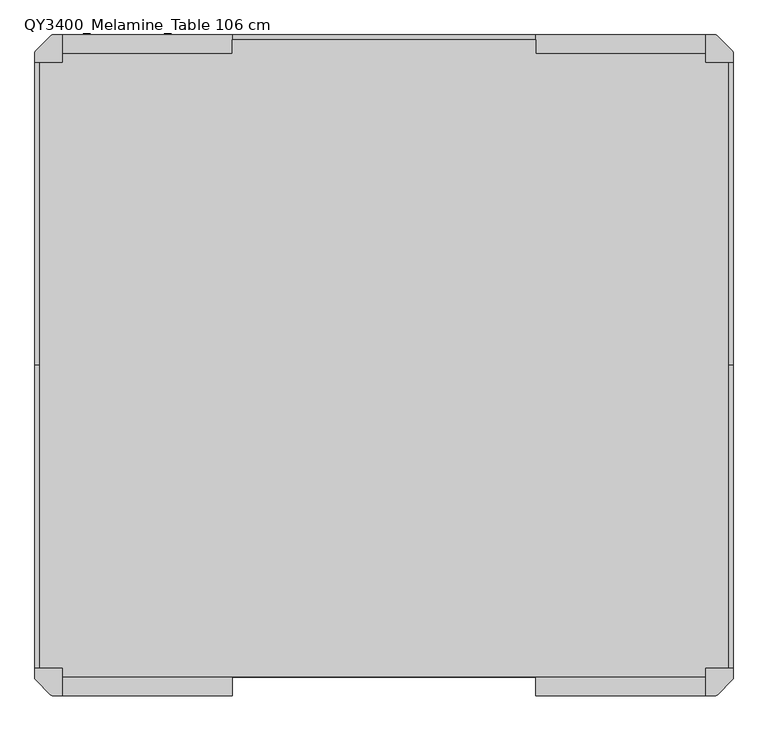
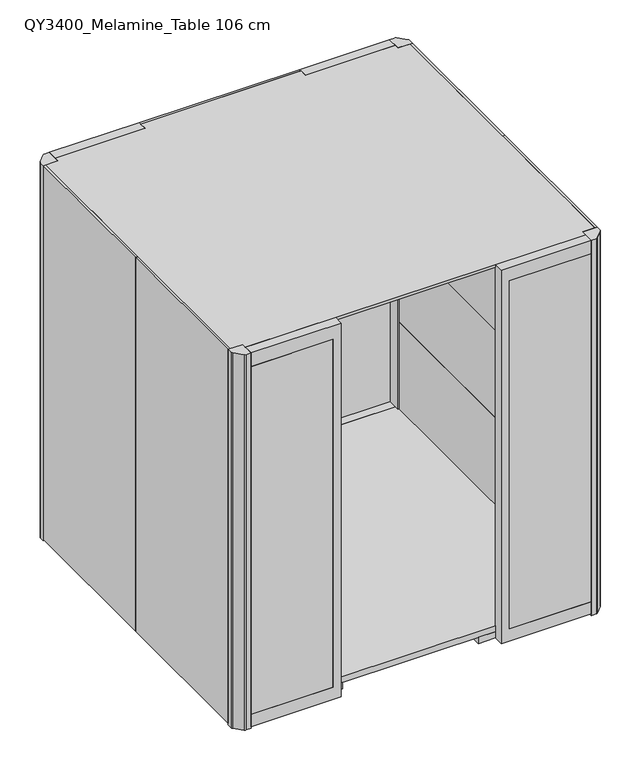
"""IFC4 building model written with IfcOpenShell, lengths in millimetres: furniture geometry, Qyos_400 : QY3400_Melamine_Table 106 cm."""

from ifc_helpers import new_model, si_unit, point, frame, frame_2d, origin, origin_with_axes, place, context, project, spatial, polyline, circle_curve, trimmed, segment, composite_curve, outline, extrude, source, transform, mapped, element, save
from ifc_brep_helpers import plane_surface, cylinder_surface, advanced_brep


def qy3400_melamine_table_106_cm_432369fd(model_context):
    return source(origin(), model_context, "Body", "SolidModel", [
        advanced_brep(
        [(853.8585356, 827.0, 0.0), (900.1414644, 827.0, 0.0), (877.0, 827.0, 0.0), (853.8585356, 827.0, 7.0), (900.1414644, 827.0, 7.0), (867.3615446, 827.0, 7.0), (886.6384554, 827.0, 7.0), (867.3615446, 827.0, 17.0), (886.6384554, 827.0, 17.0), (877.0, 827.0, 17.0)],
        [
            (0, 1, circle_curve(frame((877.0, 827.0, 0.0), z_axis=(0.0, 0.0, -1.0), x_axis=(1.0, 0.0, 0.0)), 23.1414644)),
            (1, 2),
            (2, 0),
            (1, 0, circle_curve(frame((877.0, 827.0, 0.0), z_axis=(0.0, 0.0, -1.0), x_axis=(1.0, 0.0, 0.0)), 23.1414644)),
            (3, 4, circle_curve(frame((877.0, 827.0, 7.0), z_axis=(0.0, 0.0, -1.0), x_axis=(1.0, 0.0, 0.0)), 23.1414644)),
            (4, 1),
            (0, 3),
            (4, 3, circle_curve(frame((877.0, 827.0, 7.0), z_axis=(0.0, 0.0, -1.0), x_axis=(1.0, 0.0, 0.0)), 23.1414644)),
            (5, 6, circle_curve(frame((877.0, 827.0, 7.0), z_axis=(0.0, 0.0, -1.0), x_axis=(1.0, 0.0, 0.0)), 9.6384554)),
            (6, 4),
            (3, 5),
            (6, 5, circle_curve(frame((877.0, 827.0, 7.0), z_axis=(0.0, 0.0, -1.0), x_axis=(1.0, 0.0, 0.0)), 9.6384554)),
            (7, 8, circle_curve(frame((877.0, 827.0, 17.0), z_axis=(0.0, 0.0, -1.0), x_axis=(1.0, 0.0, 0.0)), 9.6384554)),
            (8, 6),
            (5, 7),
            (8, 7, circle_curve(frame((877.0, 827.0, 17.0), z_axis=(0.0, 0.0, -1.0), x_axis=(1.0, 0.0, 0.0)), 9.6384554)),
            (9, 8),
            (7, 9),
        ],
        [
            plane_surface(frame((877.0, 827.0, 0.0), z_axis=(0.0, 0.0, -1.0), x_axis=(1.0, 0.0, 0.0))),
            cylinder_surface(frame((877.0, 827.0, 1997.4144888), z_axis=(0.0, 0.0, 1.0), x_axis=(1.0, 0.0, 0.0)), 23.1414644),
            plane_surface(frame((877.0, 827.0, 7.0), z_axis=(0.0, 0.0, 1.0), x_axis=(1.0, 0.0, 0.0))),
            cylinder_surface(frame((877.0, 827.0, 1997.4144888), z_axis=(0.0, 0.0, 1.0), x_axis=(1.0, 0.0, 0.0)), 9.6384554),
            plane_surface(frame((877.0, 827.0, 17.0), z_axis=(0.0, 0.0, 1.0), x_axis=(1.0, 0.0, 0.0))),
        ],
        [
            (0, [[1, 2, 3]]),
            (0, [[4, -3, -2]]),
            (1, [[5, 6, -1, 7]]),
            (1, [[8, -7, -4, -6]]),
            (2, [[9, 10, -5, 11]]),
            (2, [[12, -11, -8, -10]]),
            (3, [[13, 14, -9, 15]]),
            (3, [[16, -15, -12, -14]]),
            (4, [[17, -13, 18]]),
            (4, [[-18, -16, -17]]),
        ],
    ),
        extrude(outline(composite_curve([segment(trimmed(circle_curve(frame_2d((877.0, 827.0)), 23.1414644), [point((853.8585356, 827.0))], [point((900.1414644, 827.0))], False, "CARTESIAN"), True, "CONTINUOUS"), segment(trimmed(circle_curve(frame_2d((877.0, 827.0)), 23.1414644), [point((900.1414644, 827.0))], [point((853.8585356, 827.0))], False, "CARTESIAN"), True, "CONTINUOUS")], self_intersect=False)), origin_with_axes(), (0.0, 0.0, 1.0), 7.0),
        extrude(outline(composite_curve([segment(polyline([(-945.0, 890.0), (-1025.0, 890.0), (-1025.0, 917.5536246)]), True, "CONTINUOUS"), segment(trimmed(circle_curve(frame_2d((-1013.0024364, 917.3118252)), 12.0), [point((-1025.0, 917.5536246))], [point((-1021.7960176, 925.4771745))], False, "CARTESIAN"), True, "CONTINUOUS"), segment(trimmed(circle_curve(frame_2d((-443.4303831, 388.431197)), 789.2560985), [point((-1021.7960176, 925.4771745))], [point((-980.4763607, 966.7968315))], False, "CARTESIAN"), True, "CONTINUOUS"), segment(trimmed(circle_curve(frame_2d((-972.3110114, 958.0032502)), 12.0), [point((-980.4763607, 966.7968315))], [point((-972.5902872, 970.0))], False, "CARTESIAN"), True, "CONTINUOUS"), segment(polyline([(-972.5902872, 970.0), (-945.0, 970.0), (-945.0, 890.0)]), True, "CONTINUOUS")], self_intersect=False)), origin_with_axes(), (0.0, 0.0, 1.0), 2202.1),
        extrude(outline(composite_curve([segment(polyline([(945.0, 890.0), (945.0, 970.0), (972.5536246, 970.0)]), True, "CONTINUOUS"), segment(trimmed(circle_curve(frame_2d((972.3118252, 958.0024364)), 12.0), [point((972.5536246, 970.0))], [point((980.4771745, 966.7960176))], False, "CARTESIAN"), True, "CONTINUOUS"), segment(trimmed(circle_curve(frame_2d((443.431197, 388.4303831)), 789.2560985), [point((980.4771745, 966.7960176))], [point((1021.7968315, 925.4763607))], False, "CARTESIAN"), True, "CONTINUOUS"), segment(trimmed(circle_curve(frame_2d((1013.0032502, 917.3110114)), 12.0), [point((1021.7968315, 925.4763607))], [point((1025.0, 917.5902872))], False, "CARTESIAN"), True, "CONTINUOUS"), segment(polyline([(1025.0, 917.5902872), (1025.0, 890.0), (945.0, 890.0)]), True, "CONTINUOUS")], self_intersect=False)), origin_with_axes(), (0.0, 0.0, 1.0), 2202.1),
        extrude(outline(composite_curve([segment(polyline([(945.0, -890.0), (1025.0, -890.0), (1025.0, -917.5536246)]), True, "CONTINUOUS"), segment(trimmed(circle_curve(frame_2d((1013.0024364, -917.3118252)), 12.0), [point((1025.0, -917.5536246))], [point((1021.7960176, -925.4771745))], False, "CARTESIAN"), True, "CONTINUOUS"), segment(trimmed(circle_curve(frame_2d((443.4303831, -388.431197)), 789.2560985), [point((1021.7960176, -925.4771745))], [point((980.4763607, -966.7968315))], False, "CARTESIAN"), True, "CONTINUOUS"), segment(trimmed(circle_curve(frame_2d((972.3110114, -958.0032502)), 12.0), [point((980.4763607, -966.7968315))], [point((972.5902872, -970.0))], False, "CARTESIAN"), True, "CONTINUOUS"), segment(polyline([(972.5902872, -970.0), (945.0, -970.0), (945.0, -890.0)]), True, "CONTINUOUS")], self_intersect=False)), origin_with_axes(), (0.0, 0.0, 1.0), 2202.1),
        extrude(outline(composite_curve([segment(polyline([(-945.0, -890.0), (-945.0, -970.0), (-972.5536246, -970.0)]), True, "CONTINUOUS"), segment(trimmed(circle_curve(frame_2d((-972.3118252, -958.0024364)), 12.0), [point((-972.5536246, -970.0))], [point((-980.4771745, -966.7960176))], False, "CARTESIAN"), True, "CONTINUOUS"), segment(trimmed(circle_curve(frame_2d((-443.431197, -388.4303831)), 789.2560985), [point((-980.4771745, -966.7960176))], [point((-1021.7968315, -925.4763607))], False, "CARTESIAN"), True, "CONTINUOUS"), segment(trimmed(circle_curve(frame_2d((-1013.0032502, -917.3110114)), 12.0), [point((-1021.7968315, -925.4763607))], [point((-1025.0, -917.5902872))], False, "CARTESIAN"), True, "CONTINUOUS"), segment(polyline([(-1025.0, -917.5902872), (-1025.0, -890.0), (-945.0, -890.0)]), True, "CONTINUOUS")], self_intersect=False)), origin_with_axes(), (0.0, 0.0, 1.0), 2202.1),
        extrude(outline(polyline([(-445.0, 915.0), (-445.0, 956.0), (445.0, 956.0), (445.0, 915.0), (945.0, 915.0), (945.0, 890.0), (1011.0, 890.0), (1011.0, -890.0), (945.0, -890.0), (945.0, -914.9956819), (-945.0, -914.9956819), (-945.0, -890.0), (-1011.0, -890.0), (-1011.0, 890.0), (-945.0, 890.0), (-945.0, 915.0), (-445.0, 915.0)])), frame((0.0, 0.0, 2186.1), z_axis=(0.0, 0.0, 1.0), x_axis=(1.0, 0.0, 0.0)), (0.0, 0.0, 1.0), 16.0),
        extrude(outline(polyline([(-1025.0, -890.0), (-1025.0, 0.0), (-1011.0, 0.0), (-1011.0, -890.0), (-1025.0, -890.0)])), frame((0.0, 0.0, 10.0), z_axis=(0.0, 0.0, 1.0), x_axis=(1.0, 0.0, 0.0)), (0.0, 0.0, 1.0), 2192.1),
        extrude(outline(polyline([(1025.0, -890.0), (1011.0, -890.0), (1011.0, 0.0), (1025.0, 0.0), (1025.0, -890.0)])), frame((0.0, 0.0, 10.0), z_axis=(0.0, 0.0, 1.0), x_axis=(1.0, 0.0, 0.0)), (0.0, 0.0, 1.0), 2192.1),
        extrude(outline(polyline([(-945.0, 970.0), (-490.0089845, 970.0), (-490.0089845, 965.0), (-945.0, 965.0), (-945.0, 970.0)])), frame((0.0, 0.0, 82.0), z_axis=(0.0, 0.0, 1.0), x_axis=(1.0, 0.0, 0.0)), (0.0, 0.0, 1.0), 2040.1),
        extrude(outline(polyline([(490.0089845, 970.0), (945.0, 970.0), (945.0, 965.0), (490.0089845, 965.0), (490.0089845, 970.0)])), frame((0.0, 0.0, 82.0), z_axis=(0.0, 0.0, 1.0), x_axis=(1.0, 0.0, 0.0)), (0.0, 0.0, 1.0), 2040.1),
        extrude(outline(polyline([(2122.1, -490.0089845), (82.0, -490.0089845), (82.0, -945.0), (10.0, -945.0), (10.0, -445.0), (2202.1, -445.0), (2202.1, -945.0), (2122.1, -945.0), (2122.1, -490.0089845)])), frame((0.0, 915.0, 0.0), z_axis=(0.0, 1.0, 0.0), x_axis=(0.0, 0.0, 1.0)), (0.0, 0.0, 1.0), 55.0),
        extrude(outline(polyline([(2122.1, 490.0089845), (2122.1, 945.0), (2202.1, 945.0), (2202.1, 445.0), (10.0, 445.0), (10.0, 945.0), (82.0, 945.0), (82.0, 490.0089845), (2122.1, 490.0089845)])), frame((0.0, 915.0, 0.0), z_axis=(0.0, 1.0, 0.0), x_axis=(0.0, 0.0, 1.0)), (0.0, 0.0, 1.0), 55.0),
        extrude(outline(polyline([(-490.0089845, -970.0), (-945.0, -970.0), (-945.0, -965.0), (-490.0089845, -965.0), (-490.0089845, -970.0)])), frame((0.0, 0.0, 82.0), z_axis=(0.0, 0.0, 1.0), x_axis=(1.0, 0.0, 0.0)), (0.0, 0.0, 1.0), 2040.1),
        extrude(outline(polyline([(945.0, -970.0), (490.0089845, -970.0), (490.0089845, -965.0), (945.0, -965.0), (945.0, -970.0)])), frame((0.0, 0.0, 82.0), z_axis=(0.0, 0.0, 1.0), x_axis=(1.0, 0.0, 0.0)), (0.0, 0.0, 1.0), 2040.1),
        extrude(outline(polyline([(-857.0, -914.9956819), (-897.0, -914.9956819), (-897.0, 915.0), (-857.0, 915.0), (-857.0, -914.9956819)])), frame((0.0, 0.0, 10.0), z_axis=(0.0, 0.0, 1.0), x_axis=(1.0, 0.0, 0.0)), (0.0, 0.0, 1.0), 37.0),
        extrude(outline(polyline([(-405.0, -914.9956819), (-445.0, -914.9956819), (-445.0, 915.0), (-405.0, 915.0), (-405.0, -914.9956819)])), frame((0.0, 0.0, 10.0), z_axis=(0.0, 0.0, 1.0), x_axis=(1.0, 0.0, 0.0)), (0.0, 0.0, 1.0), 37.0),
        extrude(outline(polyline([(897.0, -914.9956819), (857.0, -914.9956819), (857.0, 915.0), (897.0, 915.0), (897.0, -914.9956819)])), frame((0.0, 0.0, 10.0), z_axis=(0.0, 0.0, 1.0), x_axis=(1.0, 0.0, 0.0)), (0.0, 0.0, 1.0), 37.0),
        extrude(outline(polyline([(349.5486306, 915.0), (445.0557256, 915.0), (445.0557256, -914.9956819), (349.5486306, -914.9956819), (349.5486306, 915.0)])), frame((0.0, 0.0, 10.0), z_axis=(0.0, 0.0, 1.0), x_axis=(1.0, 0.0, 0.0)), (0.0, 0.0, 1.0), 37.0),
        extrude(outline(polyline([(2122.1, -490.0089845), (82.0, -490.0089845), (82.0, -945.0), (10.0, -945.0), (10.0, -445.0), (2202.1, -445.0), (2202.1, -945.0), (2122.1, -945.0), (2122.1, -490.0089845)])), frame((0.0, -970.0, 0.0), z_axis=(0.0, 1.0, 0.0), x_axis=(0.0, 0.0, 1.0)), (0.0, 0.0, 1.0), 55.0043181),
        extrude(outline(polyline([(2122.1, 490.0089845), (2122.1, 945.0), (2202.1, 945.0), (2202.1, 445.0), (10.0, 445.0), (10.0, 945.0), (82.0, 945.0), (82.0, 490.0089845), (2122.1, 490.0089845)])), frame((0.0, -970.0, 0.0), z_axis=(0.0, 1.0, 0.0), x_axis=(0.0, 0.0, 1.0)), (0.0, 0.0, 1.0), 55.0043181),
        extrude(outline(polyline([(-951.0, 890.0), (-945.0, 890.0), (-945.0, 915.0), (945.0, 915.0), (945.0, 890.0), (951.0, 890.0), (951.0, -890.0), (945.0, -890.0), (945.0, -914.9956819), (-945.0, -914.9956819), (-945.0, -890.0), (-951.0, -890.0), (-951.0, 890.0)])), frame((0.0, 0.0, 47.0), z_axis=(0.0, 0.0, 1.0), x_axis=(1.0, 0.0, 0.0)), (0.0, 0.0, 1.0), 35.0),
        extrude(outline(polyline([(970.0, -889.9498873), (951.0, -889.9498873), (951.0, 890.0024364), (970.0, 890.0024364), (970.0, -889.9498873)])), frame((0.0, 0.0, 1617.9823403), z_axis=(0.0, 0.0, 1.0), x_axis=(1.0, 0.0, 0.0)), (0.0, 0.0, 1.0), 504.1176597),
        extrude(outline(polyline([(-970.0, -890.0), (-970.0, 890.0), (-951.0, 890.0), (-951.0, -890.0), (-970.0, -890.0)])), frame((0.0, 0.0, 1617.9823403), z_axis=(0.0, 0.0, 1.0), x_axis=(1.0, 0.0, 0.0)), (0.0, 0.0, 1.0), 504.1176597),
        extrude(outline(polyline([(-445.0, 915.0), (-445.0, 934.0), (445.0557256, 934.0), (445.0557256, 915.0), (-445.0, 915.0)])), frame((0.0, 0.0, 1617.9823403), z_axis=(0.0, 0.0, 1.0), x_axis=(1.0, 0.0, 0.0)), (0.0, 0.0, 1.0), 504.1176597),
        extrude(outline(polyline([(970.0, -890.0), (951.0, -890.0), (951.0, 890.0), (970.0, 890.0), (970.0, -890.0)])), frame((0.0, 0.0, 1106.0116287), z_axis=(0.0, 0.0, 1.0), x_axis=(1.0, 0.0, 0.0)), (0.0, 0.0, 1.0), 511.9707116),
        extrude(outline(polyline([(-970.0, -890.0), (-970.0, 890.0), (-951.0, 890.0), (-951.0, -890.0), (-970.0, -890.0)])), frame((0.0, 0.0, 1106.0116287), z_axis=(0.0, 0.0, 1.0), x_axis=(1.0, 0.0, 0.0)), (0.0, 0.0, 1.0), 511.9707116),
        extrude(outline(polyline([(-445.0, 915.0), (-445.0, 934.0), (445.0557256, 934.0), (445.0557256, 915.0), (-445.0, 915.0)])), frame((0.0, 0.0, 1106.0116287), z_axis=(0.0, 0.0, 1.0), x_axis=(1.0, 0.0, 0.0)), (0.0, 0.0, 1.0), 511.9707116),
        extrude(outline(polyline([(970.0, -890.0), (951.0, -890.0), (951.0, 890.0), (970.0, 890.0), (970.0, -890.0)])), frame((0.0, 0.0, 593.9823403), z_axis=(0.0, 0.0, 1.0), x_axis=(1.0, 0.0, 0.0)), (0.0, 0.0, 1.0), 512.0292884),
        extrude(outline(polyline([(-970.0, -890.0), (-970.0, 890.0), (-951.0, 890.0), (-951.0, -890.0), (-970.0, -890.0)])), frame((0.0, 0.0, 593.9823403), z_axis=(0.0, 0.0, 1.0), x_axis=(1.0, 0.0, 0.0)), (0.0, 0.0, 1.0), 512.0292884),
        extrude(outline(polyline([(-445.0, 915.0), (-445.0, 934.0), (445.0557256, 934.0), (445.0557256, 915.0), (-445.0, 915.0)])), frame((0.0, 0.0, 593.9823403), z_axis=(0.0, 0.0, 1.0), x_axis=(1.0, 0.0, 0.0)), (0.0, 0.0, 1.0), 512.0292884),
        extrude(outline(polyline([(970.0, -890.0), (951.0, -890.0), (951.0, 890.0), (970.0, 890.0), (970.0, -890.0)])), frame((0.0, 0.0, 77.0), z_axis=(0.0, 0.0, 1.0), x_axis=(1.0, 0.0, 0.0)), (0.0, 0.0, 1.0), 516.9823403),
        extrude(outline(polyline([(-970.0, -890.0), (-970.0, 890.0), (-951.0, 890.0), (-951.0, -890.0), (-970.0, -890.0)])), frame((0.0, 0.0, 77.0), z_axis=(0.0, 0.0, 1.0), x_axis=(1.0, 0.0, 0.0)), (0.0, 0.0, 1.0), 516.9823403),
        extrude(outline(polyline([(-445.0, 915.0), (-445.0, 934.0), (445.0557256, 934.0), (445.0557256, 915.0), (-445.0, 915.0)])), frame((0.0, 0.0, 77.0), z_axis=(0.0, 0.0, 1.0), x_axis=(1.0, 0.0, 0.0)), (0.0, 0.0, 1.0), 516.9823403),
        extrude(outline(polyline([(-1025.0, 0.0), (-1025.0, 890.0), (-1011.0, 890.0), (-1011.0, 0.0), (-1025.0, 0.0)])), frame((0.0, 0.0, 10.0), z_axis=(0.0, 0.0, 1.0), x_axis=(1.0, 0.0, 0.0)), (0.0, 0.0, 1.0), 2192.1),
        extrude(outline(polyline([(1025.0, 0.0), (1011.0, 0.0), (1011.0, 890.0), (1025.0, 890.0), (1025.0, 0.0)])), frame((0.0, 0.0, 10.0), z_axis=(0.0, 0.0, 1.0), x_axis=(1.0, 0.0, 0.0)), (0.0, 0.0, 1.0), 2192.1),
        extrude(outline(polyline([(445.0557256, 970.0), (445.0557256, 956.0), (-445.0, 956.0), (-445.0, 970.0), (445.0557256, 970.0)])), frame((0.0, 0.0, 10.0), z_axis=(0.0, 0.0, 1.0), x_axis=(1.0, 0.0, 0.0)), (0.0, 0.0, 1.0), 2192.1),
    ])


if __name__ == "__main__":
    model = new_model("IFC4")
    model_context = context("Model", 3, world=origin())
    ifc_project = project(units=[si_unit("LENGTHUNIT", "METRE", prefix="MILLI")], contexts=[model_context])
    site = spatial("IfcSite", under=ifc_project)
    building = spatial("IfcBuilding", under=site)
    placement = place(None, origin())
    qy3400_melamine_table_106_cm_shape = qy3400_melamine_table_106_cm_432369fd(model_context)
    element("IfcFurniture", 1, ObjectType="Qyos_400 : QY3400_Melamine_Table 106 cm", at=placement, inside=building, context=model_context, shape_type="MappedRepresentation", body=[
        mapped(qy3400_melamine_table_106_cm_shape, transform((0.0, 0.0, 0.0), x_axis=(1.0, 0.0, 0.0), y_axis=(0.0, 1.0, 0.0), z_axis=(0.0, 0.0, 1.0))),
    ])
    save(model, "model.ifc")
